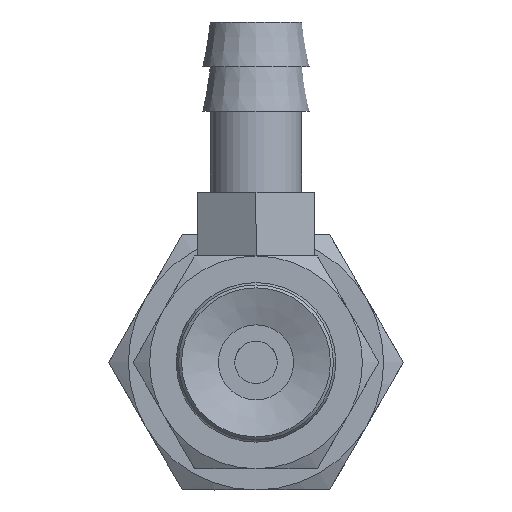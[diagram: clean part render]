
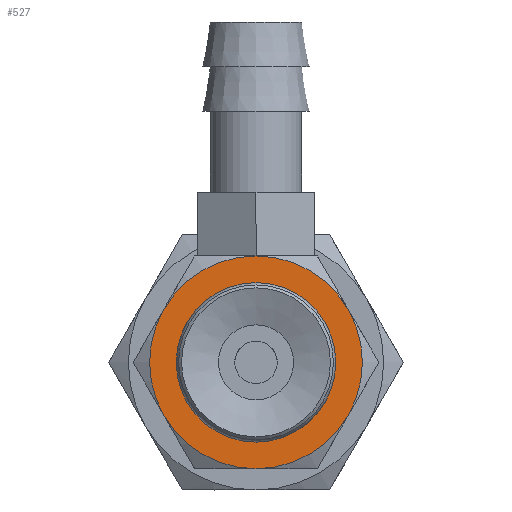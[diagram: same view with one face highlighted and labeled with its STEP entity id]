
A CAD part, front view. The second image highlights one B-rep face of the part: STEP entity #527.
In plain terms, the highlighted planar face has unit normal (0, -1, 0).
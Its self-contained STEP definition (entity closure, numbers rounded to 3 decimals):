
#527=ADVANCED_FACE('',(#768,#769),#770,.T.);
#768=FACE_BOUND('',#1124,.T.);
#769=FACE_OUTER_BOUND('',#1125,.T.);
#770=PLANE('',#1126);
#1124=EDGE_LOOP('',(#1797));
#1125=EDGE_LOOP('',(#1798,#1799,#1800,#1801,#1802,#1803));
#1126=AXIS2_PLACEMENT_3D('',#1804,#1805,#1806);
#1797=ORIENTED_EDGE('',*,*,#2376,.F.);
#1798=ORIENTED_EDGE('',*,*,#2341,.T.);
#1799=ORIENTED_EDGE('',*,*,#2338,.T.);
#1800=ORIENTED_EDGE('',*,*,#2377,.T.);
#1801=ORIENTED_EDGE('',*,*,#2322,.T.);
#1802=ORIENTED_EDGE('',*,*,#2346,.T.);
#1803=ORIENTED_EDGE('',*,*,#2378,.T.);
#1804=CARTESIAN_POINT('',(2.0,0.,0.0));
#1805=DIRECTION('',(0.0,-1.0,0.0));
#1806=DIRECTION('',(0.0,0.0,-1.0));
#2322=EDGE_CURVE('',#2634,#2626,#2636,.T.);
#2338=EDGE_CURVE('',#2665,#2662,#2666,.T.);
#2341=EDGE_CURVE('',#2654,#2665,#2669,.T.);
#2346=EDGE_CURVE('',#2626,#2647,#2678,.T.);
#2376=EDGE_CURVE('',#2731,#2731,#2732,.T.);
#2377=EDGE_CURVE('',#2662,#2634,#2733,.T.);
#2378=EDGE_CURVE('',#2647,#2654,#2734,.T.);
#2626=VERTEX_POINT('',#3334);
#2634=VERTEX_POINT('',#3350);
#2636=CIRCLE('',#3354,5.0);
#2647=VERTEX_POINT('',#3372);
#2654=VERTEX_POINT('',#3386);
#2662=VERTEX_POINT('',#3403);
#2665=VERTEX_POINT('',#3408);
#2666=CIRCLE('',#3409,5.0);
#2669=CIRCLE('',#3416,5.0);
#2678=CIRCLE('',#3439,5.0);
#2731=VERTEX_POINT('',#3552);
#2732=CIRCLE('',#3553,2.0);
#2733=CIRCLE('',#3554,5.0);
#2734=CIRCLE('',#3555,5.0);
#3334=CARTESIAN_POINT('',(-4.33,0.,2.5));
#3350=CARTESIAN_POINT('',(0.0,0.0,5.0));
#3354=AXIS2_PLACEMENT_3D('',#3875,#3876,#3877);
#3372=CARTESIAN_POINT('',(-4.33,0.0,-2.5));
#3386=CARTESIAN_POINT('',(0.0,0.0,-5.0));
#3403=CARTESIAN_POINT('',(4.33,0.0,2.5));
#3408=CARTESIAN_POINT('',(4.33,0.0,-2.5));
#3409=AXIS2_PLACEMENT_3D('',#3884,#3885,#3886);
#3416=AXIS2_PLACEMENT_3D('',#3887,#3888,#3889);
#3439=AXIS2_PLACEMENT_3D('',#3896,#3897,#3898);
#3552=CARTESIAN_POINT('',(0.0,0.,-2.0));
#3553=AXIS2_PLACEMENT_3D('',#3947,#3948,#3949);
#3554=AXIS2_PLACEMENT_3D('',#3950,#3951,#3952);
#3555=AXIS2_PLACEMENT_3D('',#3953,#3954,#3955);
#3875=CARTESIAN_POINT('',(0.0,0.,0.0));
#3876=DIRECTION('',(0.0,-1.0,0.0));
#3877=DIRECTION('',(0.0,0.0,-1.0));
#3884=CARTESIAN_POINT('',(0.0,0.,0.0));
#3885=DIRECTION('',(0.0,-1.0,0.0));
#3886=DIRECTION('',(0.0,0.0,-1.0));
#3887=CARTESIAN_POINT('',(0.0,0.,0.0));
#3888=DIRECTION('',(0.0,-1.0,0.0));
#3889=DIRECTION('',(0.0,0.0,-1.0));
#3896=CARTESIAN_POINT('',(0.0,0.,0.0));
#3897=DIRECTION('',(0.0,-1.0,0.0));
#3898=DIRECTION('',(0.0,0.0,-1.0));
#3947=CARTESIAN_POINT('',(0.0,0.,0.0));
#3948=DIRECTION('',(0.0,-1.0,0.0));
#3949=DIRECTION('',(0.0,0.0,-1.0));
#3950=CARTESIAN_POINT('',(0.0,0.,0.0));
#3951=DIRECTION('',(0.0,-1.0,0.0));
#3952=DIRECTION('',(0.0,0.0,-1.0));
#3953=CARTESIAN_POINT('',(0.0,0.,0.0));
#3954=DIRECTION('',(0.0,-1.0,0.0));
#3955=DIRECTION('',(0.0,0.0,-1.0));
